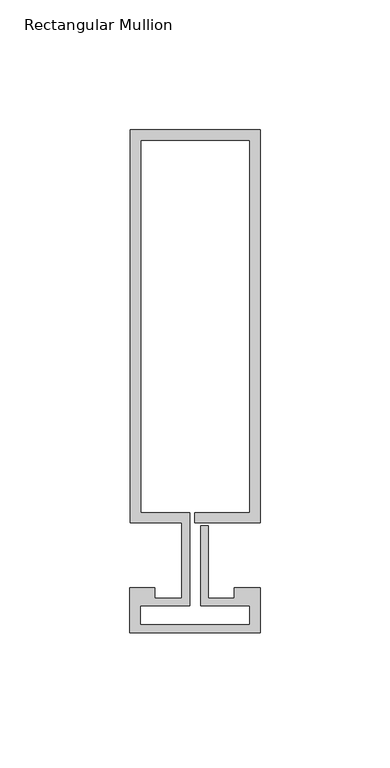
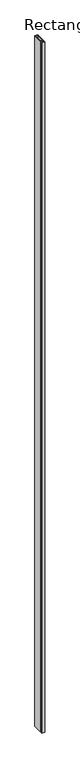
"""IFC4 building model written with IfcOpenShell, lengths in millimetres: member geometry, Rectangular Mullion : Reynaers_CW-50_Mullion-Transom_Horizontal_151.4mm_Facecap-02B."""

from ifc_helpers import new_model, si_unit, frame, origin, place, context, project, spatial, polyline, outline, extrude, source, transform, mapped, element, save


def rectangular_mullion_42c21d4d(model_context):
    return source(origin(), model_context, "Body", "SweptSolid", [
        extrude(outline(polyline([(-24.8004059, 163.9), (25.1995941, 163.9), (25.1995941, 12.5), (0.0, 12.5), (0.0, 16.5), (21.1995941, 16.5), (21.1995941, 159.9), (-20.8004059, 159.9), (-20.8004059, 16.5), (-1.9004059, 16.5), (-1.9004059, -19.5), (-20.994845, -19.5), (-20.994845, -26.7191338), (21.1995941, -26.7191338), (21.1995941, -19.5), (2.2995941, -19.5), (2.2995941, 11.5), (5.2995941, 11.5), (5.2995941, -16.5), (15.2996495, -16.5), (15.2996495, -12.5), (25.1995941, -12.5), (25.1995941, -29.8), (-24.994845, -29.8), (-24.994845, -12.5), (-15.2996495, -12.5), (-15.2996495, -16.5), (-4.9004059, -16.5), (-4.9004059, 12.5), (-24.8004059, 12.5), (-24.8004059, 163.9)])), frame((0.0, 0.0, -12000.0), z_axis=(0.0, 0.0, 1.0), x_axis=(1.0, 0.0, 0.0)), (0.0, 0.0, 1.0), 12000.0),
    ])


if __name__ == "__main__":
    model = new_model("IFC4")
    model_context = context("Model", 3, world=origin())
    ifc_project = project(units=[si_unit("LENGTHUNIT", "METRE", prefix="MILLI")], contexts=[model_context])
    site = spatial("IfcSite", under=ifc_project)
    building = spatial("IfcBuilding", under=site)
    placement = place(None, origin())
    rectangular_mullion_shape = rectangular_mullion_42c21d4d(model_context)
    element("IfcMember", 1, ObjectType="Rectangular Mullion : Reynaers_CW-50_Mullion-Transom_Horizontal_151.4mm_Facecap-02B", at=placement, inside=building, context=model_context, shape_type="MappedRepresentation", body=[
        mapped(rectangular_mullion_shape, transform((0.0, 0.0, 0.0), x_axis=(1.0, 0.0, 0.0), y_axis=(0.0, 1.0, 0.0), z_axis=(0.0, 0.0, 1.0))),
    ])
    save(model, "model.ifc")
